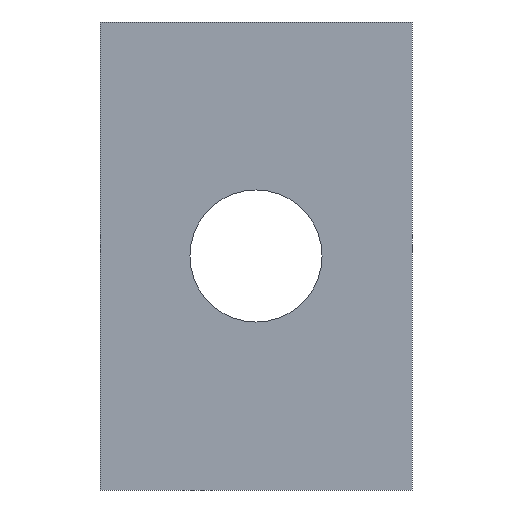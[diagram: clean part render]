
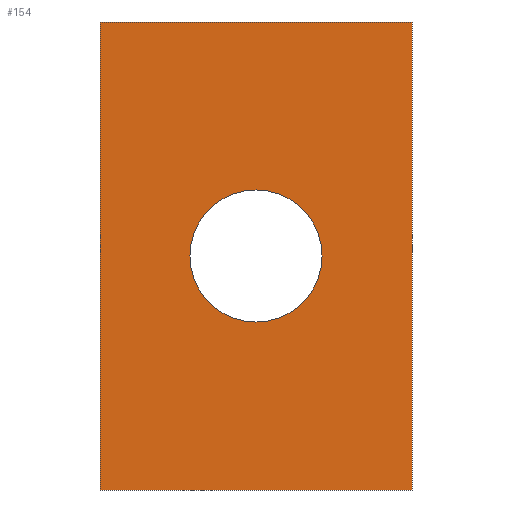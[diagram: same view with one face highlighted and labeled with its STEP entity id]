
A CAD part, front view. The second image highlights one B-rep face of the part: STEP entity #154.
In plain terms, the highlighted planar face has unit normal (0, -1, 0).
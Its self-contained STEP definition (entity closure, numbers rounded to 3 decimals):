
#17=FACE_BOUND('',#45,.T.);
#24=PLANE('',#181);
#33=FACE_OUTER_BOUND('',#44,.T.);
#44=EDGE_LOOP('',(#139,#140,#141,#142));
#45=EDGE_LOOP('',(#143));
#48=LINE('',#241,#62);
#52=LINE('',#249,#66);
#55=LINE('',#255,#69);
#58=LINE('',#260,#72);
#62=VECTOR('',#202,10.);
#66=VECTOR('',#208,10.);
#69=VECTOR('',#213,10.);
#72=VECTOR('',#218,10.);
#77=CIRCLE('',#175,2.117);
#81=VERTEX_POINT('',#235);
#82=VERTEX_POINT('',#239);
#83=VERTEX_POINT('',#240);
#86=VERTEX_POINT('',#248);
#88=VERTEX_POINT('',#254);
#95=EDGE_CURVE('',#81,#81,#77,.F.);
#96=EDGE_CURVE('',#82,#83,#48,.T.);
#100=EDGE_CURVE('',#86,#82,#52,.T.);
#103=EDGE_CURVE('',#88,#86,#55,.T.);
#106=EDGE_CURVE('',#83,#88,#58,.T.);
#139=ORIENTED_EDGE('',*,*,#106,.F.);
#140=ORIENTED_EDGE('',*,*,#96,.F.);
#141=ORIENTED_EDGE('',*,*,#100,.F.);
#142=ORIENTED_EDGE('',*,*,#103,.F.);
#143=ORIENTED_EDGE('',*,*,#95,.T.);
#154=ADVANCED_FACE('',(#33,#17),#24,.F.);
#175=AXIS2_PLACEMENT_3D('',#237,#198,#199);
#181=AXIS2_PLACEMENT_3D('',#263,#222,#223);
#198=DIRECTION('center_axis',(0.,-1.,0.));
#199=DIRECTION('ref_axis',(-1.,0.,0.));
#202=DIRECTION('',(-1.,0.,0.));
#208=DIRECTION('',(0.,0.,-1.));
#213=DIRECTION('',(1.,0.,0.));
#218=DIRECTION('',(0.,0.,1.));
#222=DIRECTION('center_axis',(0.,1.,0.));
#223=DIRECTION('ref_axis',(1.,0.,0.));
#235=CARTESIAN_POINT('',(7.117,0.,-7.5));
#237=CARTESIAN_POINT('Origin',(5.,0.,-7.5));
#239=CARTESIAN_POINT('',(10.,0.,-15.));
#240=CARTESIAN_POINT('',(0.,0.,-15.));
#241=CARTESIAN_POINT('',(10.,0.,-15.));
#248=CARTESIAN_POINT('',(10.,0.,0.));
#249=CARTESIAN_POINT('',(10.,0.,0.));
#254=CARTESIAN_POINT('',(0.,0.,0.));
#255=CARTESIAN_POINT('',(0.,0.,0.));
#260=CARTESIAN_POINT('',(0.,0.,-15.));
#263=CARTESIAN_POINT('Origin',(5.,0.,-7.5));
